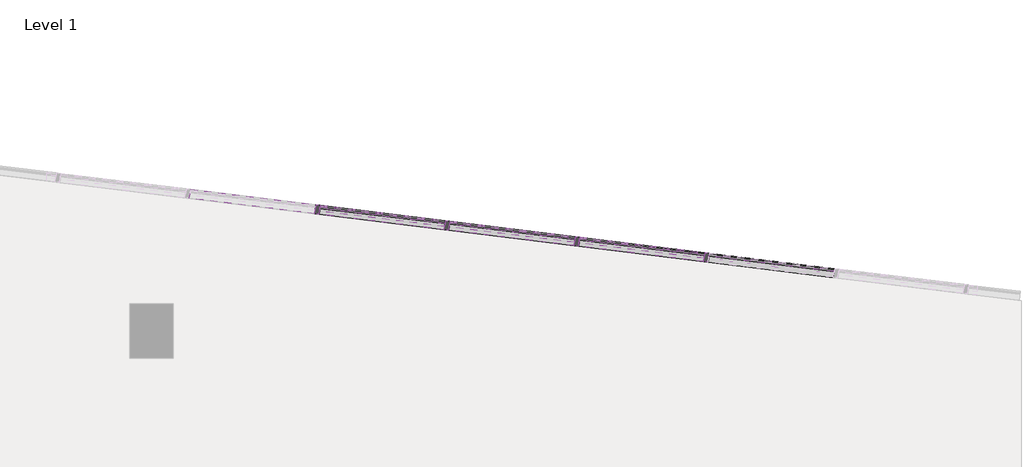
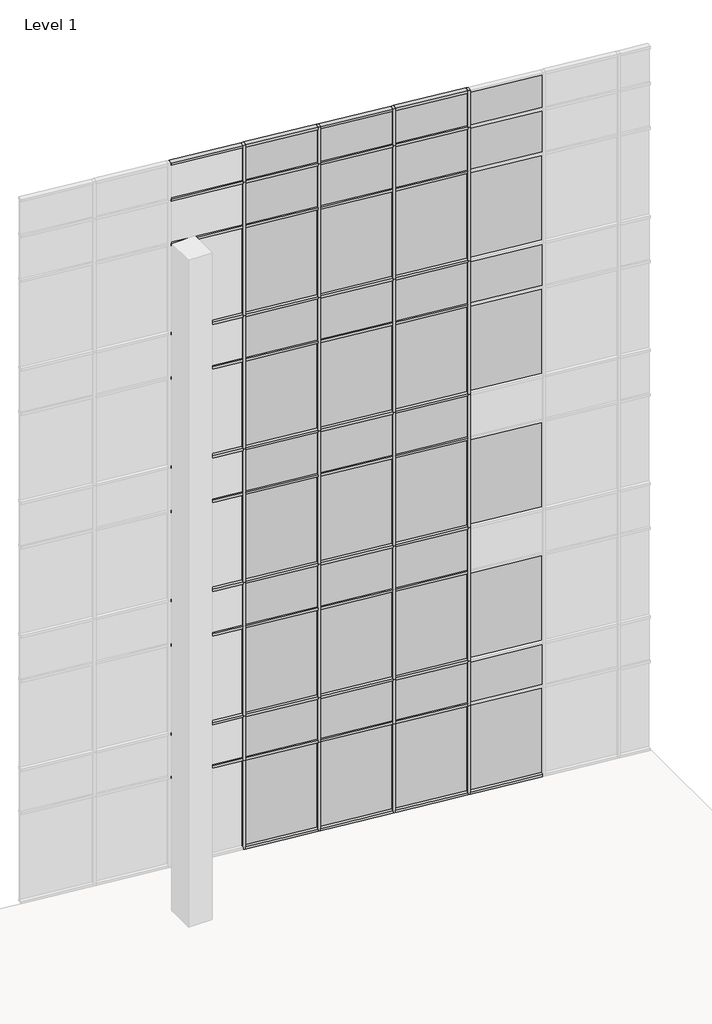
# One storey, part 21 of 23: 76 members, 42 plates.
"""IFC4 building model written with IfcOpenShell, lengths in millimetres."""

from ifc_helpers import new_model, si_unit, origin, place, context, project, spatial, transform, mapped, element, save
from components import member_2b49869a, member_f92b8aa2, member_810865a4, member_f0fea5a5, member_6d5c3e5e, member_9764dd38, system_panel_glazed_14c75400, system_panel_solid_5dfe6f83, system_panel_solid_e25e2004, system_panel_solid_b7551183

model = new_model("IFC4")

# Units and contexts
model_context = context("Model", 3, world=origin())
ifc_project = project(units=[si_unit("LENGTHUNIT", "METRE", prefix="MILLI")], contexts=[model_context])

# Site, building, storey
site = spatial("IfcSite", under=ifc_project)
building = spatial("IfcBuilding", under=site)
storey = spatial("IfcBuildingStorey", under=building, Name="Level 1", Elevation=0.0)

# Members
placement = place(None, origin())
member_shape = member_2b49869a(model_context)
element("IfcMember", 1, ObjectType="Rectangular Mullion : 2.5\" x 5\" rectangular", at=placement, inside=storey, context=model_context, shape_type="MappedRepresentation", body=[
    mapped(member_shape, transform((10636.016062, 10565.4226148, 2438.4), x_axis=(0.9925461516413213, -0.12186934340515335, 0.0), y_axis=(-0.12186934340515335, -0.9925461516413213, 0.0), z_axis=(0.0, 0.0, -1.0))),
])
element("IfcMember", 2, ObjectType="Rectangular Mullion : 2.5\" x 5\" rectangular", at=placement, inside=storey, context=model_context, shape_type="MappedRepresentation", body=[
    mapped(member_shape, transform((8820.8476599, 10788.29727, 2438.4), x_axis=(0.9925461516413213, -0.12186934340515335, 0.0), y_axis=(-0.12186934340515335, -0.9925461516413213, 0.0), z_axis=(0.0, 0.0, -1.0))),
])
element("IfcMember", 3, ObjectType="Rectangular Mullion : 2.5\" x 5\" rectangular", at=placement, inside=storey, context=model_context, shape_type="MappedRepresentation", body=[
    mapped(member_shape, transform((7005.6792577, 11011.1719252, 2438.4), x_axis=(0.9925461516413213, -0.12186934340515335, 0.0), y_axis=(-0.12186934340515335, -0.9925461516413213, 0.0), z_axis=(0.0, 0.0, -1.0))),
])
element("IfcMember", 4, ObjectType="Rectangular Mullion : 2.5\" x 5\" rectangular", at=placement, inside=storey, context=model_context, shape_type="MappedRepresentation", body=[
    mapped(member_shape, transform((5190.5108556, 11234.0465804, 2438.4), x_axis=(0.9925461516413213, -0.12186934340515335, 0.0), y_axis=(-0.12186934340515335, -0.9925461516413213, 0.0), z_axis=(0.0, 0.0, -1.0))),
])
member_2_shape = member_f92b8aa2(model_context)
element("IfcMember", 5, ObjectType="Rectangular Mullion : 2.5\" x 5\" rectangular", at=placement, inside=storey, context=model_context, shape_type="MappedRepresentation", body=[
    mapped(member_2_shape, transform((10636.016062, 10565.4226148, 18288.0), x_axis=(0.9925461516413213, -0.12186934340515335, 0.0), y_axis=(-0.12186934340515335, -0.9925461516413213, 0.0), z_axis=(0.0, 0.0, -1.0))),
])
element("IfcMember", 6, ObjectType="Rectangular Mullion : 2.5\" x 5\" rectangular", at=placement, inside=storey, context=model_context, shape_type="MappedRepresentation", body=[
    mapped(member_2_shape, transform((8820.8476599, 10788.29727, 18288.0), x_axis=(0.9925461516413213, -0.12186934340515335, 0.0), y_axis=(-0.12186934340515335, -0.9925461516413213, 0.0), z_axis=(0.0, 0.0, -1.0))),
])
element("IfcMember", 7, ObjectType="Rectangular Mullion : 2.5\" x 5\" rectangular", at=placement, inside=storey, context=model_context, shape_type="MappedRepresentation", body=[
    mapped(member_2_shape, transform((7005.6792577, 11011.1719252, 18288.0), x_axis=(0.9925461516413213, -0.12186934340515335, 0.0), y_axis=(-0.12186934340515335, -0.9925461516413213, 0.0), z_axis=(0.0, 0.0, -1.0))),
])
element("IfcMember", 8, ObjectType="Rectangular Mullion : 2.5\" x 5\" rectangular", at=placement, inside=storey, context=model_context, shape_type="MappedRepresentation", body=[
    mapped(member_2_shape, transform((5190.5108556, 11234.0465804, 18288.0), x_axis=(0.9925461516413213, -0.12186934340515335, 0.0), y_axis=(-0.12186934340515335, -0.9925461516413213, 0.0), z_axis=(0.0, 0.0, -1.0))),
])
member_3_shape = member_810865a4(model_context)
element("IfcMember", 9, ObjectType="Rectangular Mullion : 2.5\" x 5\" rectangular", at=placement, inside=storey, context=model_context, shape_type="MappedRepresentation", body=[
    mapped(member_3_shape, transform((10636.016062, 10565.4226148, 14630.4), x_axis=(0.9925461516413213, -0.12186934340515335, 0.0), y_axis=(-0.12186934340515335, -0.9925461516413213, 0.0), z_axis=(0.0, 0.0, -1.0))),
])
element("IfcMember", 10, ObjectType="Rectangular Mullion : 2.5\" x 5\" rectangular", at=placement, inside=storey, context=model_context, shape_type="MappedRepresentation", body=[
    mapped(member_3_shape, transform((10636.016062, 10565.4226148, 10972.8), x_axis=(0.9925461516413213, -0.12186934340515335, 0.0), y_axis=(-0.12186934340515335, -0.9925461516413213, 0.0), z_axis=(0.0, 0.0, -1.0))),
])
element("IfcMember", 11, ObjectType="Rectangular Mullion : 2.5\" x 5\" rectangular", at=placement, inside=storey, context=model_context, shape_type="MappedRepresentation", body=[
    mapped(member_3_shape, transform((10636.016062, 10565.4226148, 7315.2), x_axis=(0.9925461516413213, -0.12186934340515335, 0.0), y_axis=(-0.12186934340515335, -0.9925461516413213, 0.0), z_axis=(0.0, 0.0, -1.0))),
])
element("IfcMember", 12, ObjectType="Rectangular Mullion : 2.5\" x 5\" rectangular", at=placement, inside=storey, context=model_context, shape_type="MappedRepresentation", body=[
    mapped(member_3_shape, transform((10636.016062, 10565.4226148, 3657.6), x_axis=(0.9925461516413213, -0.12186934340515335, 0.0), y_axis=(-0.12186934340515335, -0.9925461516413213, 0.0), z_axis=(0.0, 0.0, -1.0))),
])
element("IfcMember", 13, ObjectType="Rectangular Mullion : 2.5\" x 5\" rectangular", at=placement, inside=storey, context=model_context, shape_type="MappedRepresentation", body=[
    mapped(member_3_shape, transform((8820.8476599, 10788.29727, 14630.4), x_axis=(0.9925461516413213, -0.12186934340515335, 0.0), y_axis=(-0.12186934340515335, -0.9925461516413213, 0.0), z_axis=(0.0, 0.0, -1.0))),
])
element("IfcMember", 14, ObjectType="Rectangular Mullion : 2.5\" x 5\" rectangular", at=placement, inside=storey, context=model_context, shape_type="MappedRepresentation", body=[
    mapped(member_3_shape, transform((8820.8476599, 10788.29727, 10972.8), x_axis=(0.9925461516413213, -0.12186934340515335, 0.0), y_axis=(-0.12186934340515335, -0.9925461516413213, 0.0), z_axis=(0.0, 0.0, -1.0))),
])
element("IfcMember", 15, ObjectType="Rectangular Mullion : 2.5\" x 5\" rectangular", at=placement, inside=storey, context=model_context, shape_type="MappedRepresentation", body=[
    mapped(member_3_shape, transform((8820.8476599, 10788.29727, 7315.2), x_axis=(0.9925461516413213, -0.12186934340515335, 0.0), y_axis=(-0.12186934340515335, -0.9925461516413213, 0.0), z_axis=(0.0, 0.0, -1.0))),
])
element("IfcMember", 16, ObjectType="Rectangular Mullion : 2.5\" x 5\" rectangular", at=placement, inside=storey, context=model_context, shape_type="MappedRepresentation", body=[
    mapped(member_3_shape, transform((8820.8476599, 10788.29727, 3657.6), x_axis=(0.9925461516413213, -0.12186934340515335, 0.0), y_axis=(-0.12186934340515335, -0.9925461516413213, 0.0), z_axis=(0.0, 0.0, -1.0))),
])
element("IfcMember", 17, ObjectType="Rectangular Mullion : 2.5\" x 5\" rectangular", at=placement, inside=storey, context=model_context, shape_type="MappedRepresentation", body=[
    mapped(member_3_shape, transform((7005.6792577, 11011.1719252, 14630.4), x_axis=(0.9925461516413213, -0.12186934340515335, 0.0), y_axis=(-0.12186934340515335, -0.9925461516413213, 0.0), z_axis=(0.0, 0.0, -1.0))),
])
element("IfcMember", 18, ObjectType="Rectangular Mullion : 2.5\" x 5\" rectangular", at=placement, inside=storey, context=model_context, shape_type="MappedRepresentation", body=[
    mapped(member_3_shape, transform((7005.6792577, 11011.1719252, 10972.8), x_axis=(0.9925461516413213, -0.12186934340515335, 0.0), y_axis=(-0.12186934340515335, -0.9925461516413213, 0.0), z_axis=(0.0, 0.0, -1.0))),
])
element("IfcMember", 19, ObjectType="Rectangular Mullion : 2.5\" x 5\" rectangular", at=placement, inside=storey, context=model_context, shape_type="MappedRepresentation", body=[
    mapped(member_3_shape, transform((7005.6792577, 11011.1719252, 7315.2), x_axis=(0.9925461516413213, -0.12186934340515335, 0.0), y_axis=(-0.12186934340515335, -0.9925461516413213, 0.0), z_axis=(0.0, 0.0, -1.0))),
])
element("IfcMember", 20, ObjectType="Rectangular Mullion : 2.5\" x 5\" rectangular", at=placement, inside=storey, context=model_context, shape_type="MappedRepresentation", body=[
    mapped(member_3_shape, transform((7005.6792577, 11011.1719252, 3657.6), x_axis=(0.9925461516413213, -0.12186934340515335, 0.0), y_axis=(-0.12186934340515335, -0.9925461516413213, 0.0), z_axis=(0.0, 0.0, -1.0))),
])
element("IfcMember", 21, ObjectType="Rectangular Mullion : 2.5\" x 5\" rectangular", at=placement, inside=storey, context=model_context, shape_type="MappedRepresentation", body=[
    mapped(member_3_shape, transform((5190.5108556, 11234.0465804, 14630.4), x_axis=(0.9925461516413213, -0.12186934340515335, 0.0), y_axis=(-0.12186934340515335, -0.9925461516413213, 0.0), z_axis=(0.0, 0.0, -1.0))),
])
element("IfcMember", 22, ObjectType="Rectangular Mullion : 2.5\" x 5\" rectangular", at=placement, inside=storey, context=model_context, shape_type="MappedRepresentation", body=[
    mapped(member_3_shape, transform((5190.5108556, 11234.0465804, 10972.8), x_axis=(0.9925461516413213, -0.12186934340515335, 0.0), y_axis=(-0.12186934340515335, -0.9925461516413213, 0.0), z_axis=(0.0, 0.0, -1.0))),
])
element("IfcMember", 23, ObjectType="Rectangular Mullion : 2.5\" x 5\" rectangular", at=placement, inside=storey, context=model_context, shape_type="MappedRepresentation", body=[
    mapped(member_3_shape, transform((5190.5108556, 11234.0465804, 7315.2), x_axis=(0.9925461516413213, -0.12186934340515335, 0.0), y_axis=(-0.12186934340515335, -0.9925461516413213, 0.0), z_axis=(0.0, 0.0, -1.0))),
])
element("IfcMember", 24, ObjectType="Rectangular Mullion : 2.5\" x 5\" rectangular", at=placement, inside=storey, context=model_context, shape_type="MappedRepresentation", body=[
    mapped(member_3_shape, transform((5190.5108556, 11234.0465804, 3657.6), x_axis=(0.9925461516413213, -0.12186934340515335, 0.0), y_axis=(-0.12186934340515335, -0.9925461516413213, 0.0), z_axis=(0.0, 0.0, -1.0))),
])
member_4_shape = member_f0fea5a5(model_context)
element("IfcMember", 25, ObjectType="Rectangular Mullion : 2.5\" x 5\" rectangular", at=placement, inside=storey, context=model_context, shape_type="MappedRepresentation", body=[
    mapped(member_4_shape, transform((8820.8476599, 10788.29727, 0.0), x_axis=(0.9925461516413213, -0.12186934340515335, 0.0), y_axis=(-0.12186934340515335, -0.9925461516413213, 0.0), z_axis=(0.0, 0.0, -1.0))),
])
element("IfcMember", 26, ObjectType="Rectangular Mullion : 2.5\" x 5\" rectangular", at=placement, inside=storey, context=model_context, shape_type="MappedRepresentation", body=[
    mapped(member_4_shape, transform((7005.6792577, 11011.1719252, 0.0), x_axis=(0.9925461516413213, -0.12186934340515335, 0.0), y_axis=(-0.12186934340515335, -0.9925461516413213, 0.0), z_axis=(0.0, 0.0, -1.0))),
])
element("IfcMember", 27, ObjectType="Rectangular Mullion : 2.5\" x 5\" rectangular", at=placement, inside=storey, context=model_context, shape_type="MappedRepresentation", body=[
    mapped(member_4_shape, transform((5190.5108556, 11234.0465804, 0.0), x_axis=(0.9925461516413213, -0.12186934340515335, 0.0), y_axis=(-0.12186934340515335, -0.9925461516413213, 0.0), z_axis=(0.0, 0.0, -1.0))),
])
element("IfcMember", 28, ObjectType="Rectangular Mullion : 2.5\" x 5\" rectangular", at=placement, inside=storey, context=model_context, shape_type="MappedRepresentation", body=[
    mapped(member_4_shape, transform((10636.016062, 10565.4226148, 0.0), x_axis=(0.9925461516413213, -0.12186934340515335, 0.0), y_axis=(-0.12186934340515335, -0.9925461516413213, 0.0), z_axis=(0.0, 0.0, -1.0))),
])
member_5_shape = member_6d5c3e5e(model_context)
element("IfcMember", 29, ObjectType="Rectangular Mullion : 2.5\" x 5\" rectangular", at=placement, inside=storey, context=model_context, shape_type="MappedRepresentation", body=[
    mapped(member_5_shape, transform((10604.5027217, 10569.2919664, 19304.0), x_axis=(0.0, 0.0, 1.0), y_axis=(-0.12186934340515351, -0.9925461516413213, 0.0), z_axis=(0.9925461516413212, -0.1218693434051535, 0.0))),
])
element("IfcMember", 30, ObjectType="Rectangular Mullion : 2.5\" x 5\" rectangular", at=placement, inside=storey, context=model_context, shape_type="MappedRepresentation", body=[
    mapped(member_5_shape, transform((8789.3343195, 10792.1666216, 19304.0), x_axis=(0.0, 0.0, 1.0), y_axis=(-0.12186934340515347, -0.9925461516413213, 0.0), z_axis=(0.9925461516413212, -0.12186934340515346, 0.0))),
])
element("IfcMember", 31, ObjectType="Rectangular Mullion : 2.5\" x 5\" rectangular", at=placement, inside=storey, context=model_context, shape_type="MappedRepresentation", body=[
    mapped(member_5_shape, transform((6974.1659174, 11015.0412769, 19304.0), x_axis=(0.0, 0.0, 1.0), y_axis=(-0.12186934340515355, -0.9925461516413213, 0.0), z_axis=(0.9925461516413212, -0.12186934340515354, 0.0))),
])
element("IfcMember", 32, ObjectType="Rectangular Mullion : 2.5\" x 5\" rectangular", at=placement, inside=storey, context=model_context, shape_type="MappedRepresentation", body=[
    mapped(member_5_shape, transform((5158.9975153, 11237.9159321, 19304.0), x_axis=(0.0, 0.0, 1.0), y_axis=(-0.12186934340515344, -0.9925461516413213, 0.0), z_axis=(0.9925461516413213, -0.12186934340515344, 0.0))),
])
member_6_shape = member_9764dd38(model_context)
element("IfcMember", 33, ObjectType="Rectangular Mullion : 2.5\" x 5\" rectangular", at=placement, inside=storey, context=model_context, shape_type="MappedRepresentation", body=[
    mapped(member_6_shape, transform((10604.5027217, 10569.2919664, 17068.8), x_axis=(0.0, 0.0, 1.0), y_axis=(-0.12186934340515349, -0.9925461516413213, 0.0), z_axis=(0.9925461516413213, -0.12186934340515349, 0.0))),
])
element("IfcMember", 34, ObjectType="Rectangular Mullion : 2.5\" x 5\" rectangular", at=placement, inside=storey, context=model_context, shape_type="MappedRepresentation", body=[
    mapped(member_6_shape, transform((8789.3343195, 10792.1666216, 17068.8), x_axis=(0.0, 0.0, 1.0), y_axis=(-0.12186934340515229, -0.9925461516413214, 0.0), z_axis=(0.9925461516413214, -0.12186934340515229, 0.0))),
])
element("IfcMember", 35, ObjectType="Rectangular Mullion : 2.5\" x 5\" rectangular", at=placement, inside=storey, context=model_context, shape_type="MappedRepresentation", body=[
    mapped(member_6_shape, transform((6974.1659174, 11015.0412769, 17068.8), x_axis=(0.0, 0.0, 1.0), y_axis=(-0.12186934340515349, -0.9925461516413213, 0.0), z_axis=(0.9925461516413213, -0.12186934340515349, 0.0))),
])
element("IfcMember", 36, ObjectType="Rectangular Mullion : 2.5\" x 5\" rectangular", at=placement, inside=storey, context=model_context, shape_type="MappedRepresentation", body=[
    mapped(member_6_shape, transform((5158.9975153, 11237.9159321, 17068.8), x_axis=(0.0, 0.0, 1.0), y_axis=(-0.1218693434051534, -0.9925461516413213, 0.0), z_axis=(0.9925461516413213, -0.1218693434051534, 0.0))),
])
element("IfcMember", 37, ObjectType="Rectangular Mullion : 2.5\" x 5\" rectangular", at=placement, inside=storey, context=model_context, shape_type="MappedRepresentation", body=[
    mapped(member_6_shape, transform((10604.5027217, 10569.2919664, 13411.2), x_axis=(0.0, 0.0, 1.0), y_axis=(-0.12186934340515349, -0.9925461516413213, 0.0), z_axis=(0.9925461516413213, -0.12186934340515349, 0.0))),
])
element("IfcMember", 38, ObjectType="Rectangular Mullion : 2.5\" x 5\" rectangular", at=placement, inside=storey, context=model_context, shape_type="MappedRepresentation", body=[
    mapped(member_6_shape, transform((8789.3343195, 10792.1666216, 13411.2), x_axis=(0.0, 0.0, 1.0), y_axis=(-0.12186934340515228, -0.9925461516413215, 0.0), z_axis=(0.9925461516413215, -0.12186934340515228, 0.0))),
])
element("IfcMember", 39, ObjectType="Rectangular Mullion : 2.5\" x 5\" rectangular", at=placement, inside=storey, context=model_context, shape_type="MappedRepresentation", body=[
    mapped(member_6_shape, transform((6974.1659174, 11015.0412769, 13411.2), x_axis=(0.0, 0.0, 1.0), y_axis=(-0.12186934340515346, -0.9925461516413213, 0.0), z_axis=(0.9925461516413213, -0.12186934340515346, 0.0))),
])
element("IfcMember", 40, ObjectType="Rectangular Mullion : 2.5\" x 5\" rectangular", at=placement, inside=storey, context=model_context, shape_type="MappedRepresentation", body=[
    mapped(member_6_shape, transform((5158.9975153, 11237.9159321, 13411.2), x_axis=(0.0, 0.0, 1.0), y_axis=(-0.1218693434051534, -0.9925461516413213, 0.0), z_axis=(0.9925461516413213, -0.1218693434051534, 0.0))),
])
element("IfcMember", 41, ObjectType="Rectangular Mullion : 2.5\" x 5\" rectangular", at=placement, inside=storey, context=model_context, shape_type="MappedRepresentation", body=[
    mapped(member_6_shape, transform((10604.5027217, 10569.2919664, 9753.6), x_axis=(0.0, 0.0, 1.0), y_axis=(-0.12186934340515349, -0.9925461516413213, 0.0), z_axis=(0.9925461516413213, -0.12186934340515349, 0.0))),
])
element("IfcMember", 42, ObjectType="Rectangular Mullion : 2.5\" x 5\" rectangular", at=placement, inside=storey, context=model_context, shape_type="MappedRepresentation", body=[
    mapped(member_6_shape, transform((8789.3343195, 10792.1666216, 9753.6), x_axis=(0.0, 0.0, 1.0), y_axis=(-0.12186934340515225, -0.9925461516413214, 0.0), z_axis=(0.9925461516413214, -0.12186934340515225, 0.0))),
])
element("IfcMember", 43, ObjectType="Rectangular Mullion : 2.5\" x 5\" rectangular", at=placement, inside=storey, context=model_context, shape_type="MappedRepresentation", body=[
    mapped(member_6_shape, transform((6974.1659174, 11015.0412769, 9753.6), x_axis=(0.0, 0.0, 1.0), y_axis=(-0.12186934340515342, -0.9925461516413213, 0.0), z_axis=(0.9925461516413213, -0.12186934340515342, 0.0))),
])
element("IfcMember", 44, ObjectType="Rectangular Mullion : 2.5\" x 5\" rectangular", at=placement, inside=storey, context=model_context, shape_type="MappedRepresentation", body=[
    mapped(member_6_shape, transform((5158.9975153, 11237.9159321, 9753.6), x_axis=(0.0, 0.0, 1.0), y_axis=(-0.12186934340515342, -0.9925461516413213, 0.0), z_axis=(0.9925461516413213, -0.12186934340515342, 0.0))),
])
element("IfcMember", 45, ObjectType="Rectangular Mullion : 2.5\" x 5\" rectangular", at=placement, inside=storey, context=model_context, shape_type="MappedRepresentation", body=[
    mapped(member_6_shape, transform((10604.5027217, 10569.2919664, 6096.0), x_axis=(0.0, 0.0, 1.0), y_axis=(-0.12186934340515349, -0.9925461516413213, 0.0), z_axis=(0.9925461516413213, -0.12186934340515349, 0.0))),
])
element("IfcMember", 46, ObjectType="Rectangular Mullion : 2.5\" x 5\" rectangular", at=placement, inside=storey, context=model_context, shape_type="MappedRepresentation", body=[
    mapped(member_6_shape, transform((8789.3343195, 10792.1666216, 6096.0), x_axis=(0.0, 0.0, 1.0), y_axis=(-0.12186934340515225, -0.9925461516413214, 0.0), z_axis=(0.9925461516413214, -0.12186934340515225, 0.0))),
])
element("IfcMember", 47, ObjectType="Rectangular Mullion : 2.5\" x 5\" rectangular", at=placement, inside=storey, context=model_context, shape_type="MappedRepresentation", body=[
    mapped(member_6_shape, transform((6974.1659174, 11015.0412769, 6096.0), x_axis=(0.0, 0.0, 1.0), y_axis=(-0.12186934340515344, -0.9925461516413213, 0.0), z_axis=(0.9925461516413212, -0.12186934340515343, 0.0))),
])
element("IfcMember", 48, ObjectType="Rectangular Mullion : 2.5\" x 5\" rectangular", at=placement, inside=storey, context=model_context, shape_type="MappedRepresentation", body=[
    mapped(member_6_shape, transform((5158.9975153, 11237.9159321, 6096.0), x_axis=(0.0, 0.0, 1.0), y_axis=(-0.12186934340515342, -0.9925461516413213, 0.0), z_axis=(0.9925461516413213, -0.12186934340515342, 0.0))),
])
element("IfcMember", 49, ObjectType="Rectangular Mullion : 2.5\" x 5\" rectangular", at=placement, inside=storey, context=model_context, shape_type="MappedRepresentation", body=[
    mapped(member_6_shape, transform((10604.5027217, 10569.2919664, 2470.15), x_axis=(0.0, 0.0, 1.0), y_axis=(-0.12186934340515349, -0.9925461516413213, 0.0), z_axis=(0.9925461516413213, -0.12186934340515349, 0.0))),
])
element("IfcMember", 50, ObjectType="Rectangular Mullion : 2.5\" x 5\" rectangular", at=placement, inside=storey, context=model_context, shape_type="MappedRepresentation", body=[
    mapped(member_6_shape, transform((8789.3343195, 10792.1666216, 2470.15), x_axis=(0.0, 0.0, 1.0), y_axis=(-0.12186934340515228, -0.9925461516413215, 0.0), z_axis=(0.9925461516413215, -0.12186934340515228, 0.0))),
])
element("IfcMember", 51, ObjectType="Rectangular Mullion : 2.5\" x 5\" rectangular", at=placement, inside=storey, context=model_context, shape_type="MappedRepresentation", body=[
    mapped(member_6_shape, transform((6974.1659174, 11015.0412769, 2470.15), x_axis=(0.0, 0.0, 1.0), y_axis=(-0.12186934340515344, -0.9925461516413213, 0.0), z_axis=(0.9925461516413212, -0.12186934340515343, 0.0))),
])
element("IfcMember", 52, ObjectType="Rectangular Mullion : 2.5\" x 5\" rectangular", at=placement, inside=storey, context=model_context, shape_type="MappedRepresentation", body=[
    mapped(member_6_shape, transform((5158.9975153, 11237.9159321, 2470.15), x_axis=(0.0, 0.0, 1.0), y_axis=(-0.12186934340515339, -0.9925461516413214, 0.0), z_axis=(0.9925461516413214, -0.12186934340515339, 0.0))),
])
element("IfcMember", 53, ObjectType="Rectangular Mullion : 2.5\" x 5\" rectangular", at=placement, inside=storey, context=model_context, shape_type="MappedRepresentation", body=[
    mapped(member_5_shape, transform((10667.5294023, 10561.5532631, 0.0), x_axis=(0.0, 0.0, -1.0), y_axis=(-0.12186934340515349, -0.9925461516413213, 0.0), z_axis=(-0.9925461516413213, 0.12186934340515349, 0.0))),
])
element("IfcMember", 54, ObjectType="Rectangular Mullion : 2.5\" x 5\" rectangular", at=placement, inside=storey, context=model_context, shape_type="MappedRepresentation", body=[
    mapped(member_5_shape, transform((8852.3610002, 10784.4279183, 0.0), x_axis=(0.0, 0.0, -1.0), y_axis=(-0.12186934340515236, -0.9925461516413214, 0.0), z_axis=(-0.9925461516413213, 0.12186934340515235, 0.0))),
])
element("IfcMember", 55, ObjectType="Rectangular Mullion : 2.5\" x 5\" rectangular", at=placement, inside=storey, context=model_context, shape_type="MappedRepresentation", body=[
    mapped(member_5_shape, transform((7037.1925981, 11007.3025736, 0.0), x_axis=(0.0, 0.0, -1.0), y_axis=(-0.12186934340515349, -0.9925461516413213, 0.0), z_axis=(-0.9925461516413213, 0.12186934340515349, 0.0))),
])
element("IfcMember", 56, ObjectType="Rectangular Mullion : 2.5\" x 5\" rectangular", at=placement, inside=storey, context=model_context, shape_type="MappedRepresentation", body=[
    mapped(member_5_shape, transform((5222.0241959, 11230.1772288, 0.0), x_axis=(0.0, 0.0, -1.0), y_axis=(-0.12186934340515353, -0.9925461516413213, 0.0), z_axis=(-0.9925461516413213, 0.12186934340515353, 0.0))),
])
element("IfcMember", 57, ObjectType="Rectangular Mullion : 2.5\" x 5\" rectangular", at=placement, inside=storey, context=model_context, shape_type="MappedRepresentation", body=[
    mapped(member_6_shape, transform((6974.1659174, 11015.0412769, 3657.6), x_axis=(0.0, 0.0, 1.0), y_axis=(-0.12186934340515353, -0.9925461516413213, 0.0), z_axis=(0.9925461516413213, -0.12186934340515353, 0.0))),
])
element("IfcMember", 58, ObjectType="Rectangular Mullion : 2.5\" x 5\" rectangular", at=placement, inside=storey, context=model_context, shape_type="MappedRepresentation", body=[
    mapped(member_6_shape, transform((5158.9975153, 11237.9159321, 3657.6), x_axis=(0.0, 0.0, 1.0), y_axis=(-0.12186934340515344, -0.9925461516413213, 0.0), z_axis=(0.9925461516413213, -0.12186934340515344, 0.0))),
])
element("IfcMember", 59, ObjectType="Rectangular Mullion : 2.5\" x 5\" rectangular", at=placement, inside=storey, context=model_context, shape_type="MappedRepresentation", body=[
    mapped(member_6_shape, transform((10604.5027217, 10569.2919664, 10972.8), x_axis=(0.0, 0.0, 1.0), y_axis=(-0.12186934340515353, -0.9925461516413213, 0.0), z_axis=(0.9925461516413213, -0.12186934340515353, 0.0))),
])
element("IfcMember", 60, ObjectType="Rectangular Mullion : 2.5\" x 5\" rectangular", at=placement, inside=storey, context=model_context, shape_type="MappedRepresentation", body=[
    mapped(member_6_shape, transform((8789.3343195, 10792.1666216, 10972.8), x_axis=(0.0, 0.0, 1.0), y_axis=(-0.12186934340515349, -0.9925461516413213, 0.0), z_axis=(0.9925461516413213, -0.12186934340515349, 0.0))),
])
element("IfcMember", 61, ObjectType="Rectangular Mullion : 2.5\" x 5\" rectangular", at=placement, inside=storey, context=model_context, shape_type="MappedRepresentation", body=[
    mapped(member_6_shape, transform((6974.1659174, 11015.0412769, 10972.8), x_axis=(0.0, 0.0, 1.0), y_axis=(-0.12186934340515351, -0.9925461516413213, 0.0), z_axis=(0.9925461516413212, -0.1218693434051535, 0.0))),
])
element("IfcMember", 62, ObjectType="Rectangular Mullion : 2.5\" x 5\" rectangular", at=placement, inside=storey, context=model_context, shape_type="MappedRepresentation", body=[
    mapped(member_6_shape, transform((5158.9975153, 11237.9159321, 10972.8), x_axis=(0.0, 0.0, 1.0), y_axis=(-0.12186934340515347, -0.9925461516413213, 0.0), z_axis=(0.9925461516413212, -0.12186934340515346, 0.0))),
])
element("IfcMember", 63, ObjectType="Rectangular Mullion : 2.5\" x 5\" rectangular", at=placement, inside=storey, context=model_context, shape_type="MappedRepresentation", body=[
    mapped(member_6_shape, transform((10604.5027217, 10569.2919664, 3657.6), x_axis=(0.0, 0.0, 1.0), y_axis=(-0.12186934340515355, -0.9925461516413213, 0.0), z_axis=(0.9925461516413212, -0.12186934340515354, 0.0))),
])
element("IfcMember", 64, ObjectType="Rectangular Mullion : 2.5\" x 5\" rectangular", at=placement, inside=storey, context=model_context, shape_type="MappedRepresentation", body=[
    mapped(member_6_shape, transform((8789.3343195, 10792.1666216, 3657.6), x_axis=(0.0, 0.0, 1.0), y_axis=(-0.12186934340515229, -0.9925461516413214, 0.0), z_axis=(0.9925461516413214, -0.12186934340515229, 0.0))),
])
element("IfcMember", 65, ObjectType="Rectangular Mullion : 2.5\" x 5\" rectangular", at=placement, inside=storey, context=model_context, shape_type="MappedRepresentation", body=[
    mapped(member_6_shape, transform((10604.5027217, 10569.2919664, 14630.4), x_axis=(0.0, 0.0, 1.0), y_axis=(-0.12186934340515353, -0.9925461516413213, 0.0), z_axis=(0.9925461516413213, -0.12186934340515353, 0.0))),
])
element("IfcMember", 66, ObjectType="Rectangular Mullion : 2.5\" x 5\" rectangular", at=placement, inside=storey, context=model_context, shape_type="MappedRepresentation", body=[
    mapped(member_6_shape, transform((8789.3343195, 10792.1666216, 14630.4), x_axis=(0.0, 0.0, 1.0), y_axis=(-0.12186934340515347, -0.9925461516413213, 0.0), z_axis=(0.9925461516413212, -0.12186934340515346, 0.0))),
])
element("IfcMember", 67, ObjectType="Rectangular Mullion : 2.5\" x 5\" rectangular", at=placement, inside=storey, context=model_context, shape_type="MappedRepresentation", body=[
    mapped(member_6_shape, transform((6974.1659174, 11015.0412769, 14630.4), x_axis=(0.0, 0.0, 1.0), y_axis=(-0.12186934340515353, -0.9925461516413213, 0.0), z_axis=(0.9925461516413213, -0.12186934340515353, 0.0))),
])
element("IfcMember", 68, ObjectType="Rectangular Mullion : 2.5\" x 5\" rectangular", at=placement, inside=storey, context=model_context, shape_type="MappedRepresentation", body=[
    mapped(member_6_shape, transform((5158.9975153, 11237.9159321, 14630.4), x_axis=(0.0, 0.0, 1.0), y_axis=(-0.12186934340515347, -0.9925461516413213, 0.0), z_axis=(0.9925461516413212, -0.12186934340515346, 0.0))),
])
element("IfcMember", 69, ObjectType="Rectangular Mullion : 2.5\" x 5\" rectangular", at=placement, inside=storey, context=model_context, shape_type="MappedRepresentation", body=[
    mapped(member_6_shape, transform((10604.5027217, 10569.2919664, 7315.2), x_axis=(0.0, 0.0, 1.0), y_axis=(-0.12186934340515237, -0.9925461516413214, 0.0), z_axis=(0.9925461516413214, -0.12186934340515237, 0.0))),
])
element("IfcMember", 70, ObjectType="Rectangular Mullion : 2.5\" x 5\" rectangular", at=placement, inside=storey, context=model_context, shape_type="MappedRepresentation", body=[
    mapped(member_6_shape, transform((8789.3343195, 10792.1666216, 7315.2), x_axis=(0.0, 0.0, 1.0), y_axis=(-0.12186934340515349, -0.9925461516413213, 0.0), z_axis=(0.9925461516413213, -0.12186934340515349, 0.0))),
])
element("IfcMember", 71, ObjectType="Rectangular Mullion : 2.5\" x 5\" rectangular", at=placement, inside=storey, context=model_context, shape_type="MappedRepresentation", body=[
    mapped(member_6_shape, transform((6974.1659174, 11015.0412769, 7315.2), x_axis=(0.0, 0.0, 1.0), y_axis=(-0.12186934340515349, -0.9925461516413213, 0.0), z_axis=(0.9925461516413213, -0.12186934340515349, 0.0))),
])
element("IfcMember", 72, ObjectType="Rectangular Mullion : 2.5\" x 5\" rectangular", at=placement, inside=storey, context=model_context, shape_type="MappedRepresentation", body=[
    mapped(member_6_shape, transform((5158.9975153, 11237.9159321, 7315.2), x_axis=(0.0, 0.0, 1.0), y_axis=(-0.12186934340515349, -0.9925461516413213, 0.0), z_axis=(0.9925461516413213, -0.12186934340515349, 0.0))),
])
element("IfcMember", 73, ObjectType="Rectangular Mullion : 2.5\" x 5\" rectangular", at=placement, inside=storey, context=model_context, shape_type="MappedRepresentation", body=[
    mapped(member_6_shape, transform((10604.5027217, 10569.2919664, 18288.0), x_axis=(0.0, 0.0, 1.0), y_axis=(-0.12186934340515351, -0.9925461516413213, 0.0), z_axis=(0.9925461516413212, -0.1218693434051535, 0.0))),
])
element("IfcMember", 74, ObjectType="Rectangular Mullion : 2.5\" x 5\" rectangular", at=placement, inside=storey, context=model_context, shape_type="MappedRepresentation", body=[
    mapped(member_6_shape, transform((8789.3343195, 10792.1666216, 18288.0), x_axis=(0.0, 0.0, 1.0), y_axis=(-0.12186934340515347, -0.9925461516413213, 0.0), z_axis=(0.9925461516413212, -0.12186934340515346, 0.0))),
])
element("IfcMember", 75, ObjectType="Rectangular Mullion : 2.5\" x 5\" rectangular", at=placement, inside=storey, context=model_context, shape_type="MappedRepresentation", body=[
    mapped(member_6_shape, transform((6974.1659174, 11015.0412769, 18288.0), x_axis=(0.0, 0.0, 1.0), y_axis=(-0.12186934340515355, -0.9925461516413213, 0.0), z_axis=(0.9925461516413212, -0.12186934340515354, 0.0))),
])
element("IfcMember", 76, ObjectType="Rectangular Mullion : 2.5\" x 5\" rectangular", at=placement, inside=storey, context=model_context, shape_type="MappedRepresentation", body=[
    mapped(member_6_shape, transform((5158.9975153, 11237.9159321, 18288.0), x_axis=(0.0, 0.0, 1.0), y_axis=(-0.12186934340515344, -0.9925461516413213, 0.0), z_axis=(0.9925461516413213, -0.12186934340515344, 0.0))),
])

# Plates
system_panel_glazed_shape = system_panel_glazed_14c75400(model_context)
element("IfcPlate", 77, ObjectType="System Panel : Glazed", at=placement, inside=storey, context=model_context, shape_type="MappedRepresentation", body=[
    mapped(system_panel_glazed_shape, transform((11543.600263, 10453.9852872, 14662.15), x_axis=(0.9925461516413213, -0.12186934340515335, 0.0), y_axis=(0.12186934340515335, 0.9925461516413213, 0.0), z_axis=(0.0, 0.0, 1.0))),
])
element("IfcPlate", 78, ObjectType="System Panel : Glazed", at=placement, inside=storey, context=model_context, shape_type="MappedRepresentation", body=[
    mapped(system_panel_glazed_shape, transform((9728.4318609, 10676.8599424, 14662.15), x_axis=(0.9925461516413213, -0.12186934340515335, 0.0), y_axis=(0.12186934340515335, 0.9925461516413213, 0.0), z_axis=(0.0, 0.0, 1.0))),
])
element("IfcPlate", 79, ObjectType="System Panel : Glazed", at=placement, inside=storey, context=model_context, shape_type="MappedRepresentation", body=[
    mapped(system_panel_glazed_shape, transform((7913.2634588, 10899.7345976, 14662.15), x_axis=(0.9925461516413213, -0.12186934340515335, 0.0), y_axis=(0.12186934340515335, 0.9925461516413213, 0.0), z_axis=(0.0, 0.0, 1.0))),
])
element("IfcPlate", 80, ObjectType="System Panel : Glazed", at=placement, inside=storey, context=model_context, shape_type="MappedRepresentation", body=[
    mapped(system_panel_glazed_shape, transform((6098.0950567, 11122.6092528, 14662.15), x_axis=(0.9925461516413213, -0.12186934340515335, 0.0), y_axis=(0.12186934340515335, 0.9925461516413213, 0.0), z_axis=(0.0, 0.0, 1.0))),
])
element("IfcPlate", 81, ObjectType="System Panel : Glazed", at=placement, inside=storey, context=model_context, shape_type="MappedRepresentation", body=[
    mapped(system_panel_glazed_shape, transform((11543.600263, 10453.9852872, 11004.55), x_axis=(0.9925461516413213, -0.12186934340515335, 0.0), y_axis=(0.12186934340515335, 0.9925461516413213, 0.0), z_axis=(0.0, 0.0, 1.0))),
])
element("IfcPlate", 82, ObjectType="System Panel : Glazed", at=placement, inside=storey, context=model_context, shape_type="MappedRepresentation", body=[
    mapped(system_panel_glazed_shape, transform((9728.4318609, 10676.8599424, 11004.55), x_axis=(0.9925461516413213, -0.12186934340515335, 0.0), y_axis=(0.12186934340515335, 0.9925461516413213, 0.0), z_axis=(0.0, 0.0, 1.0))),
])
element("IfcPlate", 83, ObjectType="System Panel : Glazed", at=placement, inside=storey, context=model_context, shape_type="MappedRepresentation", body=[
    mapped(system_panel_glazed_shape, transform((7913.2634588, 10899.7345976, 11004.55), x_axis=(0.9925461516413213, -0.12186934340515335, 0.0), y_axis=(0.12186934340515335, 0.9925461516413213, 0.0), z_axis=(0.0, 0.0, 1.0))),
])
element("IfcPlate", 84, ObjectType="System Panel : Glazed", at=placement, inside=storey, context=model_context, shape_type="MappedRepresentation", body=[
    mapped(system_panel_glazed_shape, transform((6098.0950567, 11122.6092528, 11004.55), x_axis=(0.9925461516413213, -0.12186934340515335, 0.0), y_axis=(0.12186934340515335, 0.9925461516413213, 0.0), z_axis=(0.0, 0.0, 1.0))),
])
element("IfcPlate", 85, ObjectType="System Panel : Glazed", at=placement, inside=storey, context=model_context, shape_type="MappedRepresentation", body=[
    mapped(system_panel_glazed_shape, transform((11543.600263, 10453.9852872, 7346.95), x_axis=(0.9925461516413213, -0.12186934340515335, 0.0), y_axis=(0.12186934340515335, 0.9925461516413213, 0.0), z_axis=(0.0, 0.0, 1.0))),
])
element("IfcPlate", 86, ObjectType="System Panel : Glazed", at=placement, inside=storey, context=model_context, shape_type="MappedRepresentation", body=[
    mapped(system_panel_glazed_shape, transform((9728.4318609, 10676.8599424, 7346.95), x_axis=(0.9925461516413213, -0.12186934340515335, 0.0), y_axis=(0.12186934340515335, 0.9925461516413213, 0.0), z_axis=(0.0, 0.0, 1.0))),
])
element("IfcPlate", 87, ObjectType="System Panel : Glazed", at=placement, inside=storey, context=model_context, shape_type="MappedRepresentation", body=[
    mapped(system_panel_glazed_shape, transform((7913.2634588, 10899.7345976, 7346.95), x_axis=(0.9925461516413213, -0.12186934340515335, 0.0), y_axis=(0.12186934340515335, 0.9925461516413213, 0.0), z_axis=(0.0, 0.0, 1.0))),
])
element("IfcPlate", 88, ObjectType="System Panel : Glazed", at=placement, inside=storey, context=model_context, shape_type="MappedRepresentation", body=[
    mapped(system_panel_glazed_shape, transform((6098.0950567, 11122.6092528, 7346.95), x_axis=(0.9925461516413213, -0.12186934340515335, 0.0), y_axis=(0.12186934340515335, 0.9925461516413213, 0.0), z_axis=(0.0, 0.0, 1.0))),
])
element("IfcPlate", 89, ObjectType="System Panel : Glazed", at=placement, inside=storey, context=model_context, shape_type="MappedRepresentation", body=[
    mapped(system_panel_glazed_shape, transform((11543.600263, 10453.9852872, 3689.35), x_axis=(0.9925461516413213, -0.12186934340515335, 0.0), y_axis=(0.12186934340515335, 0.9925461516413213, 0.0), z_axis=(0.0, 0.0, 1.0))),
])
element("IfcPlate", 90, ObjectType="System Panel : Glazed", at=placement, inside=storey, context=model_context, shape_type="MappedRepresentation", body=[
    mapped(system_panel_glazed_shape, transform((9728.4318609, 10676.8599424, 3689.35), x_axis=(0.9925461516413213, -0.12186934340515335, 0.0), y_axis=(0.12186934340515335, 0.9925461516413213, 0.0), z_axis=(0.0, 0.0, 1.0))),
])
element("IfcPlate", 91, ObjectType="System Panel : Glazed", at=placement, inside=storey, context=model_context, shape_type="MappedRepresentation", body=[
    mapped(system_panel_glazed_shape, transform((7913.2634588, 10899.7345976, 3689.35), x_axis=(0.9925461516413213, -0.12186934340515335, 0.0), y_axis=(0.12186934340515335, 0.9925461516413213, 0.0), z_axis=(0.0, 0.0, 1.0))),
])
element("IfcPlate", 92, ObjectType="System Panel : Glazed", at=placement, inside=storey, context=model_context, shape_type="MappedRepresentation", body=[
    mapped(system_panel_glazed_shape, transform((6098.0950567, 11122.6092528, 3689.35), x_axis=(0.9925461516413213, -0.12186934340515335, 0.0), y_axis=(0.12186934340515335, 0.9925461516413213, 0.0), z_axis=(0.0, 0.0, 1.0))),
])
element("IfcPlate", 93, ObjectType="System Panel : Glazed", at=placement, inside=storey, context=model_context, shape_type="MappedRepresentation", body=[
    mapped(system_panel_glazed_shape, transform((11543.600263, 10453.9852872, 63.5), x_axis=(0.9925461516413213, -0.12186934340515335, 0.0), y_axis=(0.12186934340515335, 0.9925461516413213, 0.0), z_axis=(0.0, 0.0, 1.0))),
])
element("IfcPlate", 94, ObjectType="System Panel : Glazed", at=placement, inside=storey, context=model_context, shape_type="MappedRepresentation", body=[
    mapped(system_panel_glazed_shape, transform((9728.4318609, 10676.8599424, 63.5), x_axis=(0.9925461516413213, -0.12186934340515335, 0.0), y_axis=(0.12186934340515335, 0.9925461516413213, 0.0), z_axis=(0.0, 0.0, 1.0))),
])
element("IfcPlate", 95, ObjectType="System Panel : Glazed", at=placement, inside=storey, context=model_context, shape_type="MappedRepresentation", body=[
    mapped(system_panel_glazed_shape, transform((7913.2634588, 10899.7345976, 63.5), x_axis=(0.9925461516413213, -0.12186934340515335, 0.0), y_axis=(0.12186934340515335, 0.9925461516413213, 0.0), z_axis=(0.0, 0.0, 1.0))),
])
element("IfcPlate", 96, ObjectType="System Panel : Glazed", at=placement, inside=storey, context=model_context, shape_type="MappedRepresentation", body=[
    mapped(system_panel_glazed_shape, transform((6098.0950567, 11122.6092528, 63.5), x_axis=(0.9925461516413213, -0.12186934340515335, 0.0), y_axis=(0.12186934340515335, 0.9925461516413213, 0.0), z_axis=(0.0, 0.0, 1.0))),
])
system_panel_solid_shape = system_panel_solid_5dfe6f83(model_context)
element("IfcPlate", 97, ObjectType="System Panel : Solid", at=placement, inside=storey, context=model_context, shape_type="MappedRepresentation", body=[
    mapped(system_panel_solid_shape, transform((6098.0950567, 11122.6092528, 18319.75), x_axis=(0.9925461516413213, -0.12186934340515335, 0.0), y_axis=(0.12186934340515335, 0.9925461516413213, 0.0), z_axis=(0.0, 0.0, 1.0))),
])
element("IfcPlate", 98, ObjectType="System Panel : Solid", at=placement, inside=storey, context=model_context, shape_type="MappedRepresentation", body=[
    mapped(system_panel_solid_shape, transform((7913.2634588, 10899.7345976, 18319.75), x_axis=(0.9925461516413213, -0.12186934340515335, 0.0), y_axis=(0.12186934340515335, 0.9925461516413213, 0.0), z_axis=(0.0, 0.0, 1.0))),
])
element("IfcPlate", 99, ObjectType="System Panel : Solid", at=placement, inside=storey, context=model_context, shape_type="MappedRepresentation", body=[
    mapped(system_panel_solid_shape, transform((9728.4318609, 10676.8599424, 18319.75), x_axis=(0.9925461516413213, -0.12186934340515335, 0.0), y_axis=(0.12186934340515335, 0.9925461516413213, 0.0), z_axis=(0.0, 0.0, 1.0))),
])
element("IfcPlate", 100, ObjectType="System Panel : Solid", at=placement, inside=storey, context=model_context, shape_type="MappedRepresentation", body=[
    mapped(system_panel_solid_shape, transform((11543.600263, 10453.9852872, 18319.75), x_axis=(0.9925461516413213, -0.12186934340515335, 0.0), y_axis=(0.12186934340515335, 0.9925461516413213, 0.0), z_axis=(0.0, 0.0, 1.0))),
])
system_panel_solid_2_shape = system_panel_solid_e25e2004(model_context)
element("IfcPlate", 101, ObjectType="System Panel : Solid", at=placement, inside=storey, context=model_context, shape_type="MappedRepresentation", body=[
    mapped(system_panel_solid_2_shape, transform((11543.600263, 10453.9852872, 17100.55), x_axis=(0.9925461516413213, -0.12186934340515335, 0.0), y_axis=(0.12186934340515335, 0.9925461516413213, 0.0), z_axis=(0.0, 0.0, 1.0))),
])
element("IfcPlate", 102, ObjectType="System Panel : Solid", at=placement, inside=storey, context=model_context, shape_type="MappedRepresentation", body=[
    mapped(system_panel_solid_2_shape, transform((9728.4318609, 10676.8599424, 17100.55), x_axis=(0.9925461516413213, -0.12186934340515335, 0.0), y_axis=(0.12186934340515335, 0.9925461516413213, 0.0), z_axis=(0.0, 0.0, 1.0))),
])
element("IfcPlate", 103, ObjectType="System Panel : Solid", at=placement, inside=storey, context=model_context, shape_type="MappedRepresentation", body=[
    mapped(system_panel_solid_2_shape, transform((7913.2634588, 10899.7345976, 17100.55), x_axis=(0.9925461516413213, -0.12186934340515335, 0.0), y_axis=(0.12186934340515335, 0.9925461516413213, 0.0), z_axis=(0.0, 0.0, 1.0))),
])
element("IfcPlate", 104, ObjectType="System Panel : Solid", at=placement, inside=storey, context=model_context, shape_type="MappedRepresentation", body=[
    mapped(system_panel_solid_2_shape, transform((6098.0950567, 11122.6092528, 17100.55), x_axis=(0.9925461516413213, -0.12186934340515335, 0.0), y_axis=(0.12186934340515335, 0.9925461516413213, 0.0), z_axis=(0.0, 0.0, 1.0))),
])
element("IfcPlate", 105, ObjectType="System Panel : Solid", at=placement, inside=storey, context=model_context, shape_type="MappedRepresentation", body=[
    mapped(system_panel_solid_2_shape, transform((11543.600263, 10453.9852872, 13442.95), x_axis=(0.9925461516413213, -0.12186934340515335, 0.0), y_axis=(0.12186934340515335, 0.9925461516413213, 0.0), z_axis=(0.0, 0.0, 1.0))),
])
element("IfcPlate", 106, ObjectType="System Panel : Solid", at=placement, inside=storey, context=model_context, shape_type="MappedRepresentation", body=[
    mapped(system_panel_solid_2_shape, transform((9728.4318609, 10676.8599424, 13442.95), x_axis=(0.9925461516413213, -0.12186934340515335, 0.0), y_axis=(0.12186934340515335, 0.9925461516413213, 0.0), z_axis=(0.0, 0.0, 1.0))),
])
element("IfcPlate", 107, ObjectType="System Panel : Solid", at=placement, inside=storey, context=model_context, shape_type="MappedRepresentation", body=[
    mapped(system_panel_solid_2_shape, transform((7913.2634588, 10899.7345976, 13442.95), x_axis=(0.9925461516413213, -0.12186934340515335, 0.0), y_axis=(0.12186934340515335, 0.9925461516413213, 0.0), z_axis=(0.0, 0.0, 1.0))),
])
element("IfcPlate", 108, ObjectType="System Panel : Solid", at=placement, inside=storey, context=model_context, shape_type="MappedRepresentation", body=[
    mapped(system_panel_solid_2_shape, transform((6098.0950567, 11122.6092528, 13442.95), x_axis=(0.9925461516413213, -0.12186934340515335, 0.0), y_axis=(0.12186934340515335, 0.9925461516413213, 0.0), z_axis=(0.0, 0.0, 1.0))),
])
element("IfcPlate", 109, ObjectType="System Panel : Solid", at=placement, inside=storey, context=model_context, shape_type="MappedRepresentation", body=[
    mapped(system_panel_solid_2_shape, transform((9728.4318609, 10676.8599424, 9785.35), x_axis=(0.9925461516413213, -0.12186934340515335, 0.0), y_axis=(0.12186934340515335, 0.9925461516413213, 0.0), z_axis=(0.0, 0.0, 1.0))),
])
element("IfcPlate", 110, ObjectType="System Panel : Solid", at=placement, inside=storey, context=model_context, shape_type="MappedRepresentation", body=[
    mapped(system_panel_solid_2_shape, transform((7913.2634588, 10899.7345976, 9785.35), x_axis=(0.9925461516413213, -0.12186934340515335, 0.0), y_axis=(0.12186934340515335, 0.9925461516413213, 0.0), z_axis=(0.0, 0.0, 1.0))),
])
element("IfcPlate", 111, ObjectType="System Panel : Solid", at=placement, inside=storey, context=model_context, shape_type="MappedRepresentation", body=[
    mapped(system_panel_solid_2_shape, transform((6098.0950567, 11122.6092528, 9785.35), x_axis=(0.9925461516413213, -0.12186934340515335, 0.0), y_axis=(0.12186934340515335, 0.9925461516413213, 0.0), z_axis=(0.0, 0.0, 1.0))),
])
element("IfcPlate", 112, ObjectType="System Panel : Solid", at=placement, inside=storey, context=model_context, shape_type="MappedRepresentation", body=[
    mapped(system_panel_solid_2_shape, transform((9728.4318609, 10676.8599424, 6127.75), x_axis=(0.9925461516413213, -0.12186934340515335, 0.0), y_axis=(0.12186934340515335, 0.9925461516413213, 0.0), z_axis=(0.0, 0.0, 1.0))),
])
element("IfcPlate", 113, ObjectType="System Panel : Solid", at=placement, inside=storey, context=model_context, shape_type="MappedRepresentation", body=[
    mapped(system_panel_solid_2_shape, transform((7913.2634588, 10899.7345976, 6127.75), x_axis=(0.9925461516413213, -0.12186934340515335, 0.0), y_axis=(0.12186934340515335, 0.9925461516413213, 0.0), z_axis=(0.0, 0.0, 1.0))),
])
element("IfcPlate", 114, ObjectType="System Panel : Solid", at=placement, inside=storey, context=model_context, shape_type="MappedRepresentation", body=[
    mapped(system_panel_solid_2_shape, transform((6098.0950567, 11122.6092528, 6127.75), x_axis=(0.9925461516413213, -0.12186934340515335, 0.0), y_axis=(0.12186934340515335, 0.9925461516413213, 0.0), z_axis=(0.0, 0.0, 1.0))),
])
system_panel_solid_3_shape = system_panel_solid_b7551183(model_context)
element("IfcPlate", 115, ObjectType="System Panel : Solid", at=placement, inside=storey, context=model_context, shape_type="MappedRepresentation", body=[
    mapped(system_panel_solid_3_shape, transform((11543.600263, 10453.9852872, 2501.9), x_axis=(0.9925461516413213, -0.12186934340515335, 0.0), y_axis=(0.12186934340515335, 0.9925461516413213, 0.0), z_axis=(0.0, 0.0, 1.0))),
])
element("IfcPlate", 116, ObjectType="System Panel : Solid", at=placement, inside=storey, context=model_context, shape_type="MappedRepresentation", body=[
    mapped(system_panel_solid_3_shape, transform((9728.4318609, 10676.8599424, 2501.9), x_axis=(0.9925461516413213, -0.12186934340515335, 0.0), y_axis=(0.12186934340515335, 0.9925461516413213, 0.0), z_axis=(0.0, 0.0, 1.0))),
])
element("IfcPlate", 117, ObjectType="System Panel : Solid", at=placement, inside=storey, context=model_context, shape_type="MappedRepresentation", body=[
    mapped(system_panel_solid_3_shape, transform((7913.2634588, 10899.7345976, 2501.9), x_axis=(0.9925461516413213, -0.12186934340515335, 0.0), y_axis=(0.12186934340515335, 0.9925461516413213, 0.0), z_axis=(0.0, 0.0, 1.0))),
])
element("IfcPlate", 118, ObjectType="System Panel : Solid", at=placement, inside=storey, context=model_context, shape_type="MappedRepresentation", body=[
    mapped(system_panel_solid_3_shape, transform((6098.0950567, 11122.6092528, 2501.9), x_axis=(0.9925461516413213, -0.12186934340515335, 0.0), y_axis=(0.12186934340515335, 0.9925461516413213, 0.0), z_axis=(0.0, 0.0, 1.0))),
])

save(model, "model.ifc")
